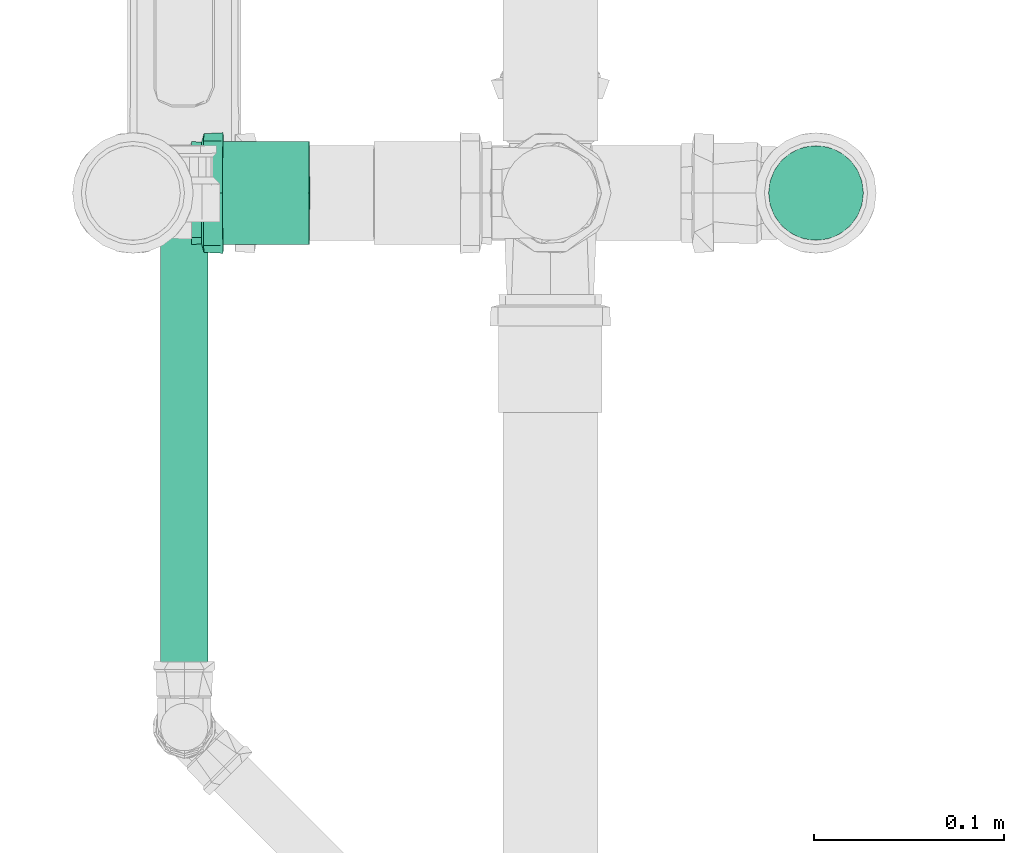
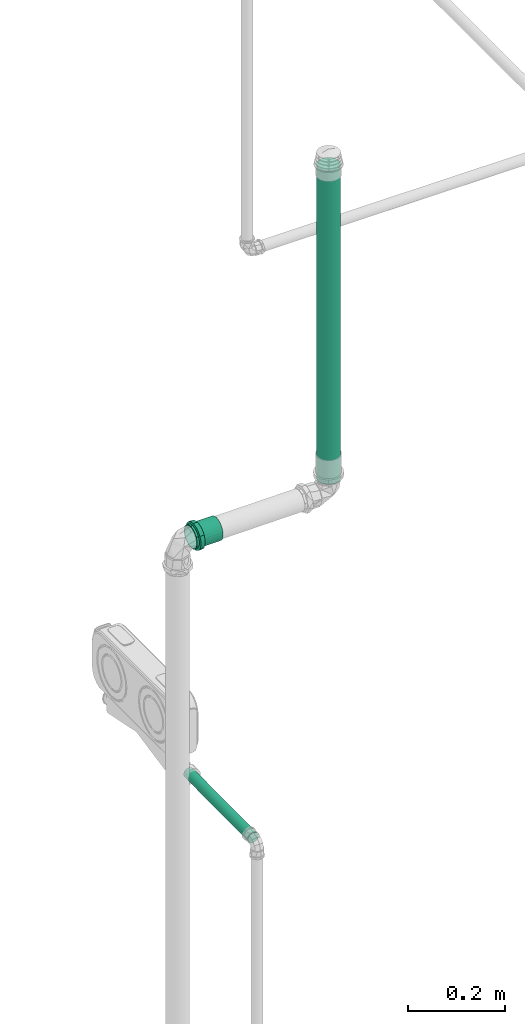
# One storey, part 170 of 589: 2 flow segments, 1 flow fitting.
"""IFC2X3 building model written with IfcOpenShell, lengths in millimetres."""

from ifc_helpers import new_model, entity, si_unit, converted_unit, derived_unit, direction, frame, origin, origin_2d_with_axis, place, context, subcontext, project, spatial, circle, extrude, faceted_brep, source, transform, mapped, material, type_object, type_shapes, element, save


model = new_model("IFC2X3")

# Units and contexts
model_context = context("Model", 3, precision=0.01, world=origin(), true_north=direction((6.123031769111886e-17, 1.0)))
body_context = subcontext(model_context, "Body", "Model", "MODEL_VIEW")
ifc_project = project(units=[si_unit("LENGTHUNIT", "METRE", prefix="MILLI"), si_unit("AREAUNIT", "SQUARE_METRE"), si_unit("VOLUMEUNIT", "CUBIC_METRE"), converted_unit("PLANEANGLEUNIT", "DEGREE", entity("IfcRatioMeasure", 0.017453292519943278), si_unit("PLANEANGLEUNIT", "RADIAN"), dimensions=[0, 0, 0, 0, 0, 0, 0]), si_unit("MASSUNIT", "GRAM", prefix="KILO"), derived_unit("MASSDENSITYUNIT", [(si_unit("MASSUNIT", "GRAM", prefix="KILO"), 1), (si_unit("LENGTHUNIT", "METRE"), -3)]), derived_unit("IONCONCENTRATIONUNIT", [(si_unit("MASSUNIT", "GRAM", prefix="KILO"), 1), (si_unit("LENGTHUNIT", "METRE"), -3)]), derived_unit("MOMENTOFINERTIAUNIT", [(si_unit("LENGTHUNIT", "METRE"), 4)]), si_unit("TIMEUNIT", "SECOND"), si_unit("FREQUENCYUNIT", "HERTZ"), si_unit("THERMODYNAMICTEMPERATUREUNIT", "DEGREE_CELSIUS"), derived_unit("THERMALTRANSMITTANCEUNIT", [(si_unit("MASSUNIT", "GRAM", prefix="KILO"), 1), (si_unit("THERMODYNAMICTEMPERATUREUNIT", "KELVIN"), -1), (si_unit("TIMEUNIT", "SECOND"), -3)]), derived_unit("THERMALCONDUCTANCEUNIT", [(si_unit("MASSUNIT", "GRAM", prefix="KILO"), 1), (si_unit("THERMODYNAMICTEMPERATUREUNIT", "KELVIN"), -1), (si_unit("TIMEUNIT", "SECOND"), -3), (si_unit("LENGTHUNIT", "METRE"), 1)]), derived_unit("VOLUMETRICFLOWRATEUNIT", [(si_unit("LENGTHUNIT", "METRE"), 3), (si_unit("TIMEUNIT", "SECOND"), -1)]), derived_unit("MASSFLOWRATEUNIT", [(si_unit("MASSUNIT", "GRAM", prefix="KILO"), 1), (si_unit("TIMEUNIT", "SECOND"), -1)]), derived_unit("ROTATIONALFREQUENCYUNIT", [(si_unit("TIMEUNIT", "SECOND"), -1)]), si_unit("ELECTRICCURRENTUNIT", "AMPERE"), si_unit("ELECTRICVOLTAGEUNIT", "VOLT"), si_unit("POWERUNIT", "WATT"), si_unit("FORCEUNIT", "NEWTON", prefix="KILO"), si_unit("ILLUMINANCEUNIT", "LUX"), si_unit("LUMINOUSFLUXUNIT", "LUMEN"), si_unit("LUMINOUSINTENSITYUNIT", "CANDELA"), derived_unit("USERDEFINED", [(si_unit("MASSUNIT", "GRAM", prefix="KILO"), -1), (si_unit("LENGTHUNIT", "METRE"), -2), (si_unit("TIMEUNIT", "SECOND"), 3), (si_unit("LUMINOUSFLUXUNIT", "LUMEN"), 1)]), derived_unit("USERDEFINED", [(si_unit("MASSUNIT", "GRAM", prefix="KILO"), 1), (si_unit("TIMEUNIT", "SECOND"), -3), (si_unit("LENGTHUNIT", "METRE"), 3), (si_unit("ELECTRICCURRENTUNIT", "AMPERE"), -2)]), derived_unit("SOUNDPOWERUNIT", [(si_unit("MASSUNIT", "GRAM", prefix="KILO"), 1), (si_unit("TIMEUNIT", "SECOND"), -3), (si_unit("LENGTHUNIT", "METRE"), 2)]), derived_unit("SOUNDPRESSUREUNIT", [(si_unit("MASSUNIT", "GRAM", prefix="KILO"), 1), (si_unit("LENGTHUNIT", "METRE"), -1), (si_unit("TIMEUNIT", "SECOND"), -2)]), derived_unit("LINEARVELOCITYUNIT", [(si_unit("LENGTHUNIT", "METRE"), 1), (si_unit("TIMEUNIT", "SECOND"), -1)]), si_unit("PRESSUREUNIT", "PASCAL"), derived_unit("USERDEFINED", [(si_unit("MASSUNIT", "GRAM", prefix="KILO"), 1), (si_unit("LENGTHUNIT", "METRE"), -2), (si_unit("TIMEUNIT", "SECOND"), -2)]), derived_unit("LINEARFORCEUNIT", [(si_unit("MASSUNIT", "GRAM", prefix="KILO"), 1), (si_unit("TIMEUNIT", "SECOND"), -2)]), derived_unit("PLANARFORCEUNIT", [(si_unit("MASSUNIT", "GRAM", prefix="KILO"), 1), (si_unit("LENGTHUNIT", "METRE"), -1), (si_unit("TIMEUNIT", "SECOND"), -2)]), derived_unit("SPECIFICHEATCAPACITYUNIT", [(si_unit("THERMODYNAMICTEMPERATUREUNIT", "KELVIN"), -1), (si_unit("LENGTHUNIT", "METRE"), 2), (si_unit("TIMEUNIT", "SECOND"), -2)]), derived_unit("HEATINGVALUEUNIT", [(si_unit("LENGTHUNIT", "METRE"), 2), (si_unit("TIMEUNIT", "SECOND"), -2)]), derived_unit("VAPORPERMEABILITYUNIT", [(si_unit("LENGTHUNIT", "METRE"), -1), (si_unit("TIMEUNIT", "SECOND"), 1)]), derived_unit("DYNAMICVISCOSITYUNIT", [(si_unit("MASSUNIT", "GRAM", prefix="KILO"), 1), (si_unit("TIMEUNIT", "SECOND"), -1), (si_unit("LENGTHUNIT", "METRE"), -1)]), derived_unit("THERMALEXPANSIONCOEFFICIENTUNIT", [(si_unit("THERMODYNAMICTEMPERATUREUNIT", "KELVIN"), -1)]), derived_unit("MODULUSOFELASTICITYUNIT", [(si_unit("MASSUNIT", "GRAM", prefix="KILO"), 1), (si_unit("LENGTHUNIT", "METRE"), -1), (si_unit("TIMEUNIT", "SECOND"), -2)]), derived_unit("ISOTHERMALMOISTURECAPACITYUNIT", [(si_unit("LENGTHUNIT", "METRE"), 3), (si_unit("MASSUNIT", "GRAM", prefix="KILO"), -1)]), derived_unit("MOISTUREDIFFUSIVITYUNIT", [(si_unit("TIMEUNIT", "SECOND"), -1), (si_unit("LENGTHUNIT", "METRE"), 2)])], contexts=[model_context])

# Site, building, storey
site_placement = place(None, origin())
site = spatial("IfcSite", under=ifc_project, at=site_placement, Name="Default", CompositionType="ELEMENT")
building_placement = place(site_placement, origin())
building = spatial("IfcBuilding", under=site, at=building_placement, CompositionType="ELEMENT")
storey_placement = place(building_placement, frame((0.0, 0.0, 100.0)))
storey = spatial("IfcBuildingStorey", under=building, at=storey_placement, Name="TÉRREO", CompositionType="ELEMENT", Elevation=100.0)

# Flow segments
pipe_segment_type_1 = type_object("IfcPipeSegmentType", Name="Tipos de tubos:PVC Esgoto Série Normal", PredefinedType="NOTDEFINED")
flow_segment_1_placement = place(storey_placement, origin())
element("IfcFlowSegment", 1, at=flow_segment_1_placement, inside=storey, type_object=pipe_segment_type_1, Name="Tipos de tubos:PVC Esgoto Série Normal", ObjectType="Tipos de tubos:PVC Esgoto Série Normal", context=body_context, shape_type="SweptSolid", body=[
    extrude(circle(Radius=25.0, at=origin_2d_with_axis()), frame((12184.978158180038, -6666.695187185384, 3076.741299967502), z_axis=(0.0, 0.0, 1.0), x_axis=(-1.0, 0.0, 0.0)), (0.0, 0.0, 1.0), 790.958700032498),
])
pipe_segment_type_2 = type_object("IfcPipeSegmentType", Name="Tipos de tubos:PVC Marrom Soldável", PredefinedType="NOTDEFINED")
flow_segment_2_placement = place(storey_placement, origin())
element("IfcFlowSegment", 2, at=flow_segment_2_placement, inside=storey, type_object=pipe_segment_type_2, Name="Tipos de tubos:PVC Marrom Soldável", ObjectType="Tipos de tubos:PVC Marrom Soldável", context=body_context, shape_type="SweptSolid", body=[
    extrude(circle(Radius=12.5, at=origin_2d_with_axis()), frame((11852.04804908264, -6931.731353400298, 2446.5387426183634), z_axis=(0.0, 0.9999500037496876, 0.009999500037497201), x_axis=(-1.0, 0.0, 0.0)), (0.0, 0.0, 1.0), 266.0970462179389),
])

# Flow fitting
ifc_material = material(Name="PVC Série Normal")
pipe_fitting_type = type_object("IfcPipeFittingType", Name="PVC Esgoto_Luva Simples para Conexão_Rodrigo MEP:Standard", PredefinedType="NOTDEFINED", material=ifc_material)
shared_shape = source(origin(), body_context, "Body", "Brep", [
    faceted_brep([(16.599999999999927, 15.900000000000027, -27.53960784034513), (16.599999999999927, 22.485995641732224, -22.485995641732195), (16.599999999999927, 13.599999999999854, -23.555890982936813), (16.599999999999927, 7.039878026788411, -26.273182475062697), (16.599999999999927, 8.2304456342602, -30.71644127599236), (16.599999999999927, 19.233304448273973, -19.233304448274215), (16.599999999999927, 27.539607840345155, -15.899999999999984), (16.599999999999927, 23.55589098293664, -13.600000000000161), (16.599999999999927, 26.273182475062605, -7.03987802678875), (16.599999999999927, 30.716441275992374, -8.230445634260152), (16.599999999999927, 27.2, 0.0), (16.599999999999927, 31.8, 0.0), (16.599999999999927, 26.273182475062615, 7.0398780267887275), (16.599999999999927, 30.71644127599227, 8.23044563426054), (16.599999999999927, 23.555890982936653, 13.60000000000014), (16.599999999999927, 27.539607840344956, 15.900000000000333), (16.599999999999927, 19.233304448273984, 19.2333044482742), (16.599999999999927, 22.485995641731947, 22.48599564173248), (16.599999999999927, 13.599999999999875, 23.555890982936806), (16.599999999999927, 15.899999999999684, 27.53960784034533), (16.599999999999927, 7.039878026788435, 26.27318247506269), (16.599999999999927, 8.230445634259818, 30.716441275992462), (16.599999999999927, 0.0, 27.2), (16.599999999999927, 0.0, 31.8), (16.599999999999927, -7.039878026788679, 26.273182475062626), (16.599999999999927, -8.230445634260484, 30.716441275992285), (16.599999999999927, -13.600000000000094, 23.555890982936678), (16.599999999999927, -15.900000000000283, 27.53960784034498), (16.599999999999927, -19.23330444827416, 19.233304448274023), (16.599999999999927, -22.485995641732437, 22.48599564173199), (16.599999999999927, -23.55589098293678, 13.59999999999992), (16.599999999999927, -27.539607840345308, 15.899999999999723), (16.599999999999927, -30.71644127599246, 8.230445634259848), (16.599999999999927, -26.273182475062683, 7.039878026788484), (16.599999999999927, -31.8, 0.0), (16.599999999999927, -27.2, 0.0), (16.599999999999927, -30.71644127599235, -8.23044563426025), (16.599999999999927, -26.273182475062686, -7.03987802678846), (16.599999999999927, -27.53960784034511, -15.90000000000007), (16.599999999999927, -23.55589098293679, -13.599999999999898), (16.599999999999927, -22.485995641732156, -22.485995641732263), (16.599999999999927, -19.233304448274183, -19.233304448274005), (16.599999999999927, -15.899999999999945, -27.53960784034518), (16.599999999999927, -13.600000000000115, -23.555890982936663), (16.599999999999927, -8.230445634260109, -30.716441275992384), (16.599999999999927, -7.039878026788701, -26.273182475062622), (16.599999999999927, 0.0, -31.8), (16.599999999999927, 0.0, -27.2), (6.500000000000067, -10.708108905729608, 29.429219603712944), (6.500000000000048, -24.359073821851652, 20.44200387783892), (6.500000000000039, -27.120498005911, 15.6595386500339), (6.50000000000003, -29.881922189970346, 10.877073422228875), (6.500000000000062, -15.89769721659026, 27.540937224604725), (6.500000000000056, -20.128385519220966, 23.991470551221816), (6.50000000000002, -30.840961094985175, 5.438536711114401), (6.5000000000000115, -31.8, 0.0), (6.50000000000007, -5.518520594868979, 31.317501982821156), (6.500000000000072, 5.526376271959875, 31.316116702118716), (6.50000000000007, 0.00392783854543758, 31.316809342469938), (6.500000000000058, 20.134403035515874, 23.986420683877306), (6.500000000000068, 10.715490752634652, 29.42653259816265), (6.500000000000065, 15.904605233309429, 27.536948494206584), (6.500000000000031, 29.8846497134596, 10.869577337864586), (6.500000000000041, 27.12442527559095, 15.652735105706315), (6.5000000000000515, 24.364200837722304, 20.435892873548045), (6.5000000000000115, 31.8, 0.0), (6.499999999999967, 24.364200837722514, -20.435892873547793), (6.499999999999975, 27.12442527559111, -15.652735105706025), (6.499999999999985, 29.884649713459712, -10.869577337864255), (6.4999999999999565, 15.904605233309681, -27.53694849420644), (6.499999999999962, 20.134403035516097, -23.986420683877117), (6.499999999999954, 10.715490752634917, -29.42653259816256), (6.499999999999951, 5.526376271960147, -31.31611670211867), (6.499999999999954, -5.518520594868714, -31.317501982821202), (6.499999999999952, 0.003927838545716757, -31.316809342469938), (6.499999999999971, -20.128385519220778, -23.99147055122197), (6.499999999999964, -15.897697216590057, -27.54093722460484), (6.499999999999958, -10.70810890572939, -29.42921960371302), (6.499999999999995, -29.881922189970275, -10.877073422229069), (6.499999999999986, -27.12049800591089, -15.659538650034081), (6.499999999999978, -24.359073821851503, -20.442003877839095), (6.500000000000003, -30.840961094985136, -5.438536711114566), (6.499999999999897, -30.696173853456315, -6.259599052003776), (62.0, 13.600000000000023, -23.55589098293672), (62.0, 19.233304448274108, -19.23330444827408), (62.0, 12.499999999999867, -21.650635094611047), (62.0, 6.470476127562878, -24.14814565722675), (62.0, 7.039878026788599, -26.273182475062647), (62.0, 17.677669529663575, -17.677669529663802), (62.0, 23.55589098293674, -13.599999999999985), (62.0, 21.65063509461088, -12.50000000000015), (62.0, 24.148145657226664, -6.470476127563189), (62.0, 26.27318247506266, -7.039878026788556), (62.0, 25.0, 0.0), (62.0, 27.2, 0.0), (62.0, 24.148145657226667, 6.4704761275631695), (62.0, 26.273182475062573, 7.03987802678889), (62.0, 21.650635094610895, 12.500000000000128), (62.0, 23.555890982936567, 13.600000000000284), (62.0, 17.67766952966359, 17.67766952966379), (62.0, 19.233304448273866, 19.233304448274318), (62.0, 12.499999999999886, 21.650635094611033), (62.0, 13.59999999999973, 23.55589098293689), (62.0, 6.4704761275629, 24.14814565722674), (62.0, 7.039878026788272, 26.273182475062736), (62.0, 0.0, 25.0), (62.0, 0.0, 27.2), (62.0, -6.470476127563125, 24.148145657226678), (62.0, -7.039878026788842, 26.273182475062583), (62.0, -12.500000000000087, 21.650635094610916), (62.0, -13.600000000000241, 23.555890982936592), (62.0, -17.677669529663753, 17.677669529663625), (62.0, -19.233304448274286, 19.2333044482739), (62.0, -21.65063509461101, 12.499999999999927), (62.0, -23.555890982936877, 13.599999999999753), (62.0, -26.27318247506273, 7.039878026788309), (62.0, -24.14814565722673, 6.470476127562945), (62.0, -27.2, 0.0), (62.0, -25.0, 0.0), (62.0, -26.27318247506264, -7.0398780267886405), (62.0, -24.148145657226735, -6.470476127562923), (62.0, -23.5558909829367, -13.600000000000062), (62.0, -21.650635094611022, -12.499999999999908), (62.0, -19.233304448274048, -19.233304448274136), (62.0, -17.67766952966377, -17.677669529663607), (62.0, -13.599999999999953, -23.555890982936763), (62.0, -12.500000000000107, -21.650635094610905), (62.0, -7.039878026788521, -26.27318247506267), (62.0, -6.470476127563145, -24.148145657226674), (62.0, 0.0, -27.2), (62.0, 0.0, -25.0), (0.0, 12.499999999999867, -21.650635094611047), (0.0, 19.233304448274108, -19.23330444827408), (0.0, 13.600000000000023, -23.55589098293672), (0.0, 6.470476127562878, -24.14814565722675), (0.0, 17.677669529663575, -17.677669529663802), (0.0, 23.55589098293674, -13.599999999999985), (0.0, 21.65063509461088, -12.50000000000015), (0.0, 24.148145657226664, -6.470476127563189), (0.0, 26.27318247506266, -7.039878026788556), (0.0, 25.0, 0.0), (0.0, 27.2, 0.0), (0.0, 24.148145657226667, 6.4704761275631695), (0.0, 26.273182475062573, 7.03987802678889), (0.0, 21.650635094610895, 12.500000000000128), (0.0, 23.555890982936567, 13.600000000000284), (0.0, 17.67766952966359, 17.67766952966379), (0.0, 19.233304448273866, 19.233304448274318), (0.0, 12.499999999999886, 21.650635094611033), (0.0, 13.59999999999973, 23.55589098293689), (0.0, 6.4704761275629, 24.14814565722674), (0.0, 7.039878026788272, 26.273182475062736), (0.0, 0.0, 25.0), (0.0, 0.0, 27.2), (0.0, -6.470476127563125, 24.148145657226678), (0.0, -7.039878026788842, 26.273182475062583), (0.0, -12.500000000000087, 21.650635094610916), (0.0, -13.600000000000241, 23.555890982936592), (0.0, -17.677669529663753, 17.677669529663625), (0.0, -19.233304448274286, 19.2333044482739), (0.0, -21.65063509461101, 12.499999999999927), (0.0, -23.555890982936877, 13.599999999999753), (0.0, -26.27318247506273, 7.039878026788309), (0.0, -24.14814565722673, 6.470476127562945), (0.0, -27.2, 0.0), (0.0, -25.0, 0.0), (0.0, -26.27318247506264, -7.0398780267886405), (0.0, -24.148145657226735, -6.470476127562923), (0.0, -23.5558909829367, -13.600000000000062), (0.0, -21.650635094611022, -12.499999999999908), (0.0, -19.233304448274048, -19.233304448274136), (0.0, -17.67766952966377, -17.677669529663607), (0.0, -13.599999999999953, -23.555890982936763), (0.0, -12.500000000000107, -21.650635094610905), (0.0, -7.039878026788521, -26.27318247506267), (0.0, -6.470476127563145, -24.148145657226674), (0.0, 0.0, -27.2), (0.0, 0.0, -25.0), (0.0, 7.039878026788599, -26.273182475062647), (5.300000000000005, -26.37968999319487, 4.651830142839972), (5.299999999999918, -26.25584678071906, 5.354122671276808), (5.300000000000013, -25.559379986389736, 9.303660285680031), (5.300000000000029, -20.835434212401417, 17.48498444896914), (5.300000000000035, -17.216732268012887, 20.521006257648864), (5.300000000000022, -23.19740709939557, 13.394322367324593), (5.3000000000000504, -4.720244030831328, 26.787297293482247), (5.300000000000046, -9.15913717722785, 25.172162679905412), (5.299999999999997, -27.2, 0.0), (5.300000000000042, -13.598030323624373, 23.557028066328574), (5.300000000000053, 9.165451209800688, 25.169864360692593), (5.300000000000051, 13.603939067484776, 23.55361632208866), (5.300000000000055, 4.7269633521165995, 26.786112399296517), (5.300000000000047, 17.221879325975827, 20.516686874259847), (5.300000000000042, 20.839819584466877, 17.479757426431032), (5.3000000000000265, 25.56171296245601, 9.297248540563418), (5.299999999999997, 27.2, 0.0), (5.3000000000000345, 23.20076627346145, 13.388502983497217), (5.300000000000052, 0.003359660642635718, 26.786704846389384), (5.299999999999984, 25.56171296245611, -9.29724854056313), (5.299999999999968, 20.839819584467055, -17.47975742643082), (5.2999999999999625, 17.22187932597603, -20.516686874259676), (5.299999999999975, 23.200766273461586, -13.388502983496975), (5.299999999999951, 4.726963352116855, -26.78611239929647), (5.2999999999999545, 9.165451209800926, -25.169864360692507), (5.299999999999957, 13.603939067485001, -23.553616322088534), (5.29999999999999, -26.379689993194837, -4.651830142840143), (5.299999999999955, -9.159137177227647, -25.17216267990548), (5.299999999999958, -13.5980303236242, -23.55702806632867), (5.299999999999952, -4.720244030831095, -26.787297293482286), (5.299999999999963, -17.216732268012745, -20.52100625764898), (5.299999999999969, -20.83543421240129, -17.484984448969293), (5.299999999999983, -25.559379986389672, -9.303660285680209), (5.299999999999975, -23.197407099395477, -13.394322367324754), (5.299999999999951, 0.003359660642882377, -26.78670484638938), (39.0, -25.0, 0.0), (39.0, 25.0, 0.0)], [[[0, 1, 2]], [[0, 2, 3]], [[3, 4, 0]], [[2, 1, 5]], [[6, 5, 1]], [[7, 5, 6]], [[8, 7, 6]], [[8, 6, 9]], [[8, 9, 10]], [[10, 9, 11]], [[12, 10, 11]], [[12, 11, 13]], [[14, 12, 13]], [[14, 13, 15]], [[16, 14, 15]], [[15, 17, 16]], [[17, 18, 16]], [[17, 19, 18]], [[18, 19, 20]], [[21, 20, 19]], [[20, 21, 22]], [[22, 21, 23]], [[22, 23, 24]], [[24, 23, 25]], [[24, 25, 26]], [[27, 26, 25]], [[27, 28, 26]], [[28, 27, 29]], [[30, 28, 29]], [[31, 30, 29]], [[32, 30, 31]], [[33, 30, 32]], [[33, 32, 34]], [[35, 33, 34]], [[36, 35, 34]], [[36, 37, 35]], [[37, 36, 38]], [[39, 37, 38]], [[39, 38, 40]], [[39, 40, 41]], [[40, 42, 41]], [[41, 42, 43]], [[43, 42, 44]], [[44, 45, 43]], [[46, 45, 44]], [[4, 47, 46]], [[46, 47, 45]], [[4, 3, 47]], [[48, 27, 25]], [[31, 29, 49]], [[31, 49, 50, 51]], [[52, 53, 27]], [[32, 51, 54]], [[54, 55, 34]], [[54, 34, 32]], [[25, 56, 48]], [[49, 29, 53]], [[23, 57, 58, 56]], [[59, 19, 17]], [[27, 53, 29]], [[48, 52, 27]], [[31, 51, 32]], [[57, 23, 21]], [[60, 19, 61]], [[15, 62, 63, 64]], [[19, 60, 21]], [[15, 13, 62]], [[17, 64, 59]], [[57, 21, 60]], [[23, 56, 25]], [[15, 64, 17]], [[13, 65, 62]], [[13, 11, 65]], [[59, 61, 19]], [[65, 11, 9]], [[6, 1, 66]], [[6, 66, 67, 68]], [[69, 70, 0]], [[68, 65, 9]], [[71, 69, 0]], [[71, 0, 4]], [[4, 72, 71]], [[66, 1, 70]], [[46, 73, 74, 72]], [[75, 76, 42]], [[0, 70, 1]], [[75, 42, 40]], [[6, 68, 9]], [[73, 46, 44]], [[77, 42, 76]], [[38, 78, 79, 80]], [[42, 77, 44]], [[38, 36, 78]], [[40, 80, 75]], [[73, 44, 77]], [[46, 72, 4]], [[38, 80, 40]], [[36, 81, 82, 78]], [[55, 81, 34]], [[34, 81, 36]], [[83, 84, 85]], [[83, 85, 86]], [[86, 87, 83]], [[85, 84, 88]], [[89, 88, 84]], [[88, 89, 90]], [[90, 89, 91]], [[92, 91, 89]], [[92, 93, 91]], [[93, 92, 94]], [[95, 93, 94]], [[94, 96, 95]], [[95, 96, 97]], [[98, 97, 96]], [[97, 98, 99]], [[99, 98, 100]], [[101, 99, 100]], [[100, 102, 101]], [[101, 102, 103]], [[104, 103, 102]], [[103, 104, 105]], [[105, 104, 106]], [[105, 106, 107]], [[107, 106, 108]], [[107, 108, 109]], [[110, 109, 108]], [[110, 111, 109]], [[111, 110, 112]], [[112, 113, 111]], [[114, 113, 112]], [[113, 114, 115]], [[115, 116, 113]], [[117, 116, 115]], [[117, 118, 116]], [[119, 118, 117]], [[119, 120, 118]], [[120, 119, 121]], [[121, 122, 120]], [[122, 121, 123]], [[122, 123, 124]], [[123, 125, 124]], [[124, 125, 126]], [[126, 125, 127]], [[127, 128, 126]], [[129, 128, 127]], [[87, 130, 129]], [[129, 130, 128]], [[87, 86, 130]], [[131, 132, 133]], [[134, 131, 133]], [[135, 132, 131]], [[132, 135, 136]], [[137, 136, 135]], [[138, 136, 137]], [[136, 138, 139]], [[138, 140, 139]], [[141, 139, 140]], [[141, 140, 142]], [[142, 143, 141]], [[144, 143, 142]], [[143, 144, 145]], [[146, 145, 144]], [[147, 145, 146]], [[147, 146, 148]], [[148, 149, 147]], [[150, 149, 148]], [[149, 150, 151]], [[152, 151, 150]], [[153, 151, 152]], [[154, 153, 152]], [[155, 153, 154]], [[156, 155, 154]], [[155, 156, 157]], [[156, 158, 157]], [[159, 157, 158]], [[158, 160, 159]], [[159, 160, 161]], [[162, 161, 160]], [[160, 163, 162]], [[162, 163, 164]], [[163, 165, 164]], [[164, 165, 166]], [[165, 167, 166]], [[168, 166, 167]], [[167, 169, 168]], [[170, 168, 169]], [[171, 170, 169]], [[171, 172, 170]], [[173, 172, 171]], [[174, 172, 173]], [[173, 175, 174]], [[174, 175, 176]], [[175, 177, 176]], [[177, 134, 178]], [[176, 177, 178]], [[133, 178, 134]], [[162, 179, 180, 181]], [[159, 182, 183]], [[182, 161, 181, 184]], [[185, 155, 186]], [[161, 162, 181]], [[187, 179, 164]], [[183, 188, 157]], [[183, 157, 159]], [[161, 182, 159]], [[189, 190, 149]], [[189, 149, 151]], [[157, 188, 186]], [[157, 186, 155]], [[153, 155, 185]], [[164, 179, 162]], [[151, 191, 189]], [[147, 192, 193]], [[143, 194, 195]], [[194, 145, 193, 196]], [[143, 195, 141]], [[10, 12, 96, 94]], [[149, 192, 147]], [[153, 185, 197, 191]], [[153, 191, 151]], [[145, 147, 193]], [[190, 192, 149]], [[145, 194, 143]], [[139, 195, 198]], [[132, 199, 200]], [[199, 136, 198, 201]], [[202, 178, 203]], [[136, 139, 198]], [[139, 141, 195]], [[92, 8, 10, 94]], [[133, 203, 178]], [[200, 204, 133]], [[136, 199, 132]], [[205, 164, 166]], [[206, 207, 172]], [[133, 204, 203]], [[206, 172, 174]], [[176, 178, 202]], [[200, 133, 132]], [[174, 208, 206]], [[170, 209, 210]], [[166, 211, 205]], [[211, 168, 210, 212]], [[168, 211, 166]], [[172, 209, 170]], [[176, 202, 213, 208]], [[176, 208, 174]], [[168, 170, 210]], [[207, 209, 172]], [[205, 187, 164]], [[116, 118, 214, 165, 163]], [[156, 109, 111, 158]], [[111, 113, 160, 158]], [[113, 116, 163, 160]], [[107, 109, 156, 154]], [[154, 152, 105, 107]], [[103, 105, 152, 150]], [[103, 150, 148, 101]], [[142, 95, 97, 144]], [[97, 99, 146, 144]], [[99, 101, 148, 146]], [[93, 95, 142, 140, 215]], [[215, 140, 138, 91, 93]], [[135, 131, 85, 88]], [[90, 91, 138, 137]], [[90, 137, 135, 88]], [[86, 85, 131, 134]], [[134, 177, 130, 86]], [[128, 130, 177, 175]], [[128, 175, 173, 126]], [[167, 120, 122, 169]], [[122, 124, 171, 169]], [[124, 126, 173, 171]], [[118, 120, 167, 165, 214]], [[211, 78, 82, 81, 55, 187, 205]], [[79, 78, 211, 212, 210, 80]], [[75, 80, 210, 209, 207, 76]], [[207, 206, 208, 73, 77, 76]], [[213, 202, 72, 74, 73, 208]], [[203, 204, 69, 71, 72, 202]], [[198, 195, 65, 68]], [[199, 201, 198, 68, 67, 66]], [[204, 200, 199, 66, 70, 69]], [[195, 194, 62, 65]], [[197, 185, 56, 58, 57, 191]], [[63, 62, 194, 196, 193, 64]], [[57, 60, 61, 190, 189, 191]], [[193, 192, 190, 61, 59, 64]], [[48, 56, 185, 186, 188, 52]], [[187, 55, 54, 51, 181, 180, 179]], [[182, 184, 181, 51, 50, 49]], [[188, 183, 182, 49, 53, 52]], [[30, 33, 115, 114]], [[117, 115, 33, 35]], [[26, 28, 112, 110]], [[114, 112, 28, 30]], [[24, 26, 110, 108]], [[108, 106, 22, 24]], [[18, 20, 104, 102]], [[100, 16, 18, 102]], [[12, 14, 98, 96]], [[100, 98, 14, 16]], [[104, 20, 22, 106]], [[89, 7, 8, 92]], [[83, 87, 3, 2]], [[7, 89, 84, 5]], [[83, 2, 5, 84]], [[87, 129, 47, 3]], [[43, 45, 127, 125]], [[123, 41, 43, 125]], [[37, 39, 121, 119]], [[123, 121, 39, 41]], [[35, 37, 119, 117]], [[127, 45, 47, 129]]]),
])
type_shapes(pipe_fitting_type, [shared_shape])
flow_fitting_placement = place(storey_placement, frame((11855.917911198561, -6666.695187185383, 3042.5093975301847), z_axis=(0.0, 1.0, 0.0), x_axis=(0.9999500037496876, 0.0, 0.009999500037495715)))
element("IfcFlowFitting", 3, at=flow_fitting_placement, inside=storey, type_object=pipe_fitting_type, material=ifc_material, Name="PVC Esgoto_Luva Simples para Conexão_Rodrigo MEP:Standard", ObjectType="PVC Esgoto_Luva Simples para Conexão_Rodrigo MEP:Standard", context=body_context, shape_type="MappedRepresentation", body=[
    mapped(shared_shape, transform((0.0, 0.0, 0.0), scale=1.0)),
])

save(model, "model.ifc")
